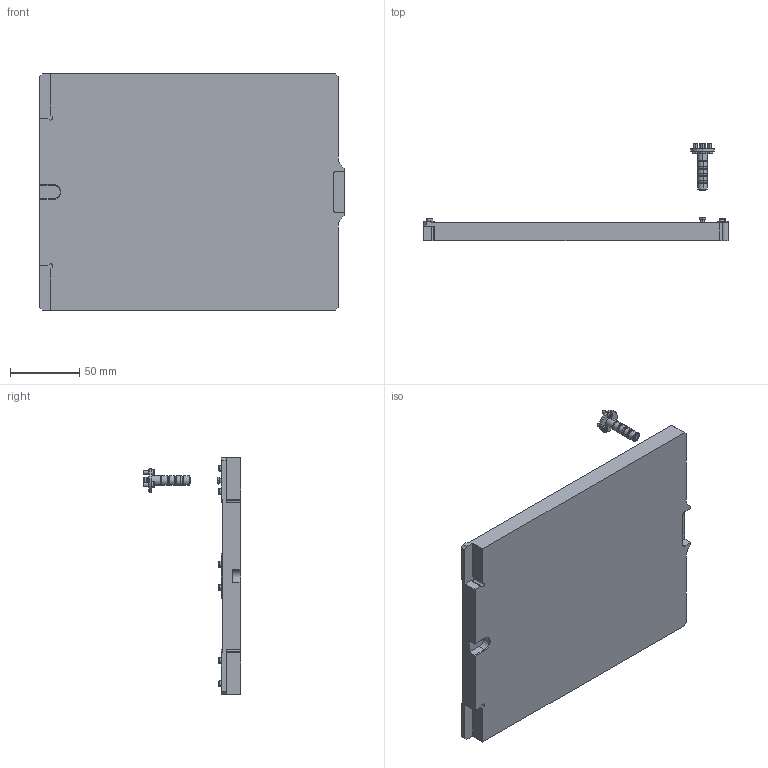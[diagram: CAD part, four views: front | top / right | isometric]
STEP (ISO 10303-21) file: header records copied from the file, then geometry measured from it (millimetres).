
FILE_DESCRIPTION (( 'STEP AP203' ), '1' );
FILE_NAME ('Asyril_CALIBRATION PLATE - 240--.step', '2018-07-19T07:13:27', ( 'Standard' ), ( '' ), 'SwSTEP 2.0', 'SolidWorks 2016', '' );
FILE_SCHEMA (( 'CONFIG_CONTROL_DESIGN' ));
Length unit declared in the file: millimetre
Products named in the file (5): Asyril_ROBOT CALIBRATION TOOL KIT - 240_000.102.221_(option); Asyril_CALIBRATION PLATE - 240--; Asyril_CALIBRATION PLATE - 240_000.101.930_(option); Asyril_ROBOT CALIBRATION TOOL_000.102.067_(option); Asyril_ROBOT CALIBRATION PIN - 240_000.102.061_(option)
Assembly tree (4 placements, depth 3):
  Asyril_CALIBRATION PLATE - 240--
    Asyril_CALIBRATION PLATE - 240_000.101.930_(option)
    Asyril_ROBOT CALIBRATION TOOL KIT - 240_000.102.221_(option)
      Asyril_ROBOT CALIBRATION TOOL_000.102.067_(option)
      Asyril_ROBOT CALIBRATION PIN - 240_000.102.061_(option)
Bounding box: 220.5 x 70.5 x 171 mm (x, y, z)
Volume: 477051.6 mm3; surface area: 87037.2 mm2
Topology: 6 solids, 6 shells, 1399 faces, 3203 edges, 1840 vertices
Faces by surface type: plane 1026, cylinder 197, cone 134, torus 40, sphere 2
Entity records: 39976 total; most frequent: CARTESIAN_POINT 8986, ORIENTED_EDGE 6360, DIRECTION 6053, EDGE_CURVE 3180, LINE 2281, VECTOR 2281, AXIS2_PLACEMENT_3D 1886, VERTEX_POINT 1837
